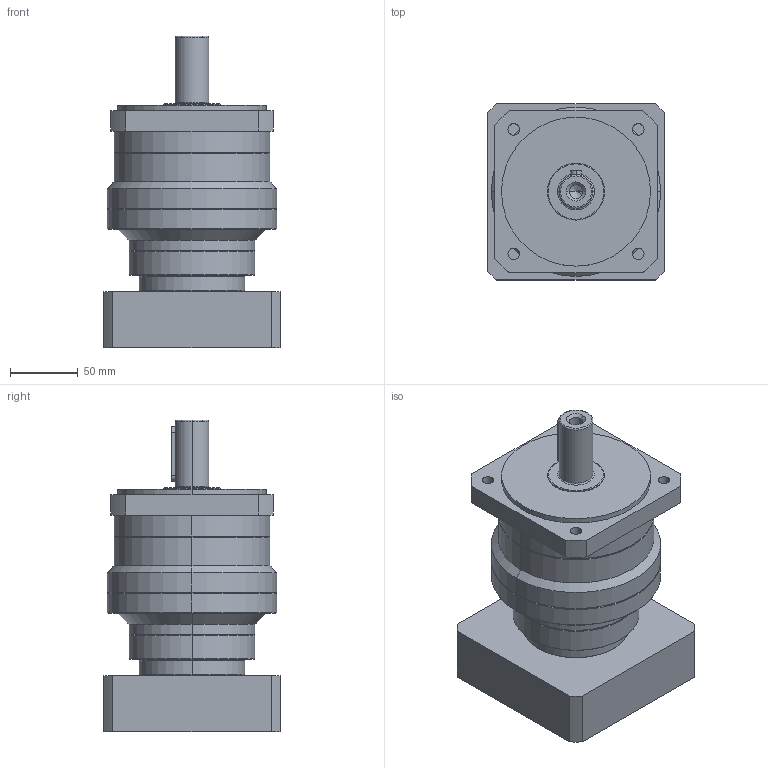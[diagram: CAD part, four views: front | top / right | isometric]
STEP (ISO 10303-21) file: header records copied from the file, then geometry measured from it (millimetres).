
FILE_DESCRIPTION (( 'STEP AP214' ), '1' );
FILE_NAME ('FB120-L2-S2-P2 24-110-145-M8.STEP', '2024-02-03T01:01:50', ( '微软用户' ), ( '微软中国' ), 'SwSTEP 2.0', 'SolidWorks 2018', '' );
FILE_SCHEMA (( 'AUTOMOTIVE_DESIGN' ));
Length unit declared in the file: millimetre
Products named in the file (1): FB120-L2-S2-P2 24-110-145-M8
Bounding box: 130 x 130 x 230 mm (x, y, z)
Volume: 1891753.7 mm3; surface area: 149342.2 mm2
Topology: 1 solids, 1 shells, 122 faces, 273 edges, 167 vertices
Faces by surface type: cylinder 57, plane 31, cone 28, torus 6
Entity records: 3523 total; most frequent: DIRECTION 657, CARTESIAN_POINT 628, ORIENTED_EDGE 542, EDGE_CURVE 271, AXIS2_PLACEMENT_3D 266, VERTEX_POINT 167, EDGE_LOOP 146, CIRCLE 143
